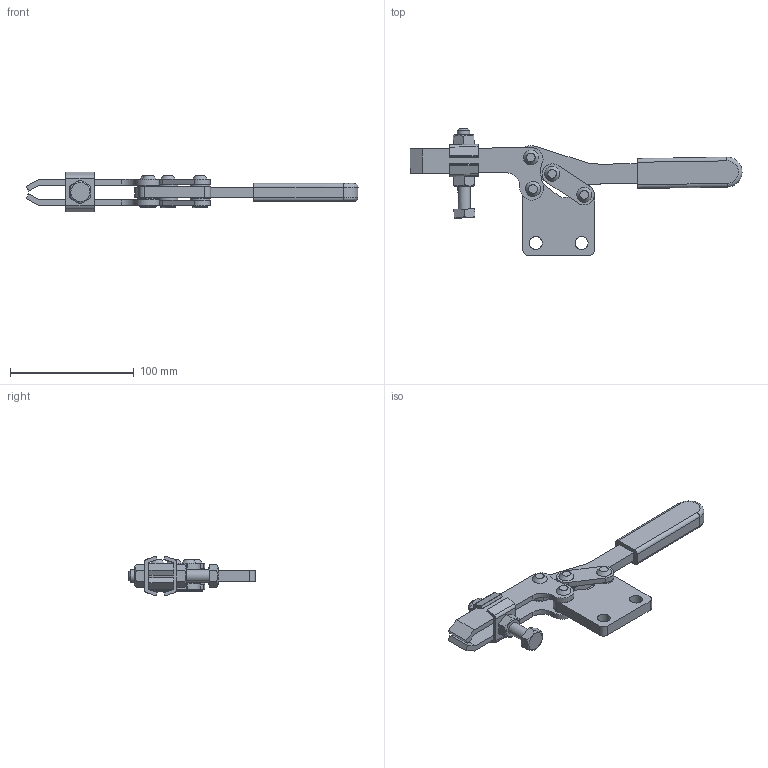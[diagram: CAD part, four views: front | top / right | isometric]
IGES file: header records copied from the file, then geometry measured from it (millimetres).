
Global section: file name: No.38DS; native system: Autodesk Inventor 2020; preprocessor: unknown; author: 高橋善宗,,11,0,1; organization: 5H16010101.000000; date: 20211201.114010; units: millimetre
Bounding box: 268.44 x 102.48 x 32.24 mm (x, y, z)
Volume: 117445.1 mm3; surface area: 59544.2 mm2
Topology: 24 solids, 24 shells, 229 faces, 518 edges, 353 vertices
Faces by surface type: bspline 229
